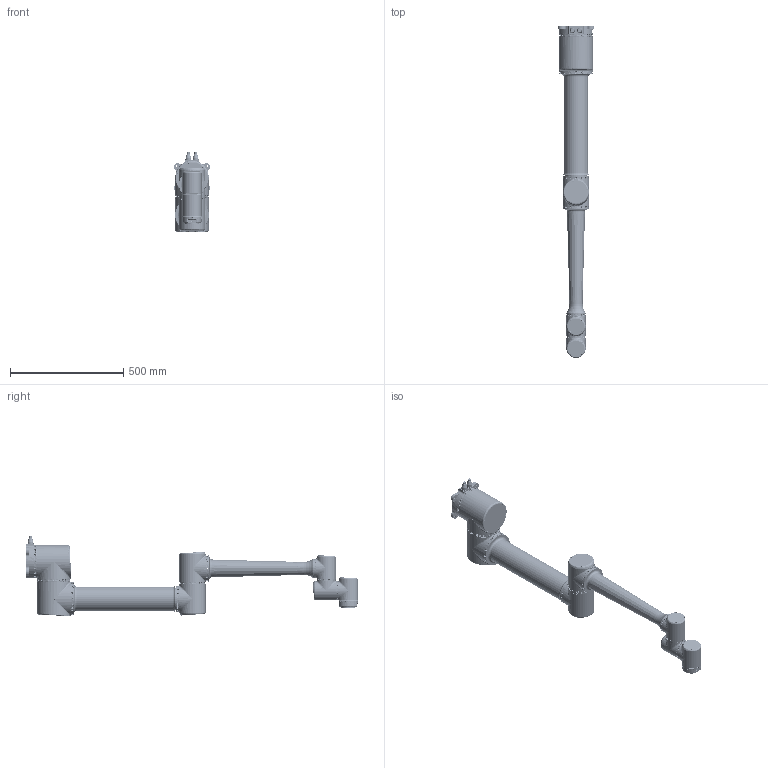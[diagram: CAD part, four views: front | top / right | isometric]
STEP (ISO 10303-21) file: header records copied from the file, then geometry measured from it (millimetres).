
FILE_DESCRIPTION (( 'STEP AP203' ), '1' );
FILE_NAME ('eRobo 10.STEP', '2021-07-27T00:59:10', ( '' ), ( '' ), 'SwSTEP 2.0', 'SolidWorks 2016', '' );
FILE_SCHEMA (( 'CONFIG_CONTROL_DESIGN' ));
Length unit declared in the file: millimetre
Products named in the file (29): T倰110俋褲20201125; 2-130-005 10kg三关节连杆 -腰形; T倰110俋褲埻紫; T倰142郋粣-潠趙; 3-130-001 徹盄鍼踢; eRob80T; 2-130-003 三轴转接2; 瑤脣; 瑤脣鼠芛; 80T型芯轴侧面螺丝-自己外发档; ZCT0052-142T-003-0 T倰142綴裔; 110T倰郋粣-潠趙; ZCT0022-80T-002-0 T倰80綴裔; M3-7-6肣蹟翐; eRobo 10; hexagon socket head cap screws gb_GB_FASTENER_SCREWS_HSHCS M3X5-N; eRob142T; T倰142俋褲20201125; 2-130-002 10kg媼壽誹蟀裝; 3-130-001 10kg菁釱鍼踢; eRob110T; eDriver-Rob14俋楷唳; T倰80Pcb綴裔俋楷唳; 2-130-001 10kg菁釱; 錨船T倰8020201125; 2-130-006 10kg藺傷楊擘; 2-110T-002 T倰110綴裔; 2-130-004 三轴转接1
Assembly tree (55 placements, depth 3):
  eRobo 10
    eRob142T  x2
      T倰142俋褲20201125
      T倰142郋粣-潠趙
      eDriver-Rob14俋楷唳
      ZCT0052-142T-003-0 T倰142綴裔
      T倰80Pcb綴裔俋楷唳
      M3-7-6肣蹟翐
      hexagon socket head cap screws gb_GB_FASTENER_SCREWS_HSHCS M3X5-N
    eRob80T  x3
      錨船T倰8020201125
      80T型芯轴侧面螺丝-自己外发档
      eDriver-Rob14俋楷唳
      T倰80Pcb綴裔俋楷唳
      M3-7-6肣蹟翐
      hexagon socket head cap screws gb_GB_FASTENER_SCREWS_HSHCS M3X5-N
      ZCT0022-80T-002-0 T倰80綴裔
    2-130-002 10kg媼壽誹蟀裝
    2-110T-002 T倰110綴裔
    2-130-001 10kg菁釱
    瑤脣  x2
    瑤脣鼠芛  x2
    2-130-005 10kg三关节连杆 -腰形
    3-130-001 徹盄鍼踢  x4
    2-130-006 10kg藺傷楊擘
    2-130-003 三轴转接2
    2-130-004 三轴转接1
    T倰110俋褲埻紫
    3-130-001 10kg菁釱鍼踢
    eRob110T
      T倰110俋褲20201125
      110T倰郋粣-潠趙
      2-110T-002 T倰110綴裔
      hexagon socket head cap screws gb_GB_FASTENER_SCREWS_HSHCS M3X5-N  x4
Bounding box: 160.35 x 1465.5 x 353.96 mm (x, y, z)
Volume: 10467623.2 mm3; surface area: 2128059.2 mm2
Topology: 115 solids, 157 shells, 18217 faces, 47310 edges, 29915 vertices
Faces by surface type: plane 10295, cylinder 4773, cone 1368, bspline 1233, torus 371, sphere 177
Entity records: 276677 total; most frequent: CARTESIAN_POINT 93422, ORIENTED_EDGE 37096, DIRECTION 37054, EDGE_CURVE 18548, AXIS2_PLACEMENT_3D 13370, VERTEX_POINT 11795, VECTOR 10314, LINE 10314
